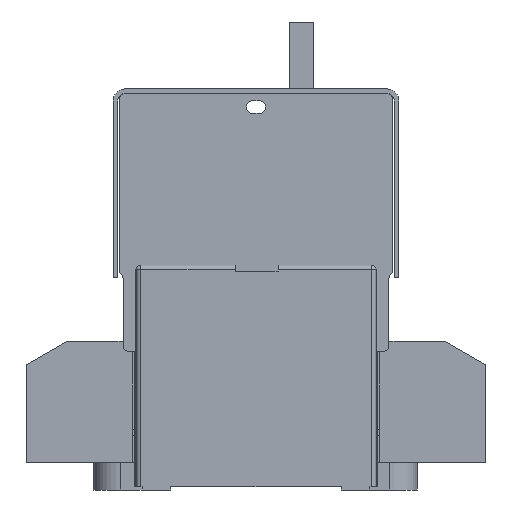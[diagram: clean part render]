
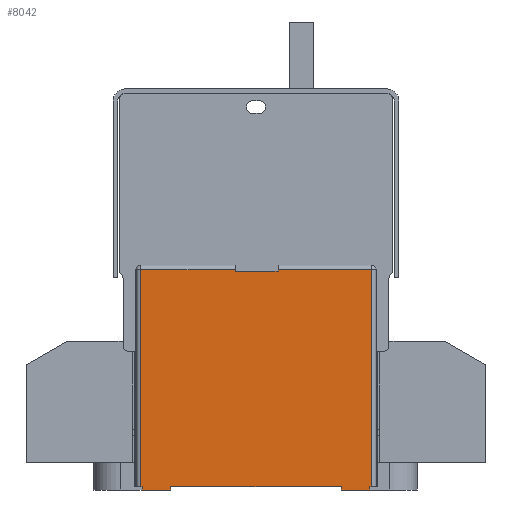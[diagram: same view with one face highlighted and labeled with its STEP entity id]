
A CAD part, left-side view. The second image highlights one B-rep face of the part: STEP entity #8042.
In plain terms, the highlighted planar face has unit normal (-1, 0, 0).
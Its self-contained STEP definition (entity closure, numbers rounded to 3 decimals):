
#824=PLANE('',#24557);
#1885=FACE_OUTER_BOUND('',#9994,.T.);
#4083=LINE('',#36682,#6587);
#4085=LINE('',#36688,#6589);
#4155=LINE('',#37000,#6659);
#4171=LINE('',#37080,#6675);
#4206=LINE('',#37163,#6710);
#4211=LINE('',#37175,#6715);
#4213=LINE('',#37178,#6717);
#4219=LINE('',#37191,#6723);
#4356=LINE('',#37476,#6860);
#4357=LINE('',#37480,#6861);
#4358=LINE('',#37481,#6862);
#4359=LINE('',#37483,#6863);
#4360=LINE('',#37485,#6864);
#4361=LINE('',#37486,#6865);
#4362=LINE('',#37487,#6866);
#4363=LINE('',#37489,#6867);
#6587=VECTOR('',#29756,1.);
#6589=VECTOR('',#29762,1.);
#6659=VECTOR('',#30050,1.);
#6675=VECTOR('',#30162,1.);
#6710=VECTOR('',#30247,1.);
#6715=VECTOR('',#30254,1.);
#6717=VECTOR('',#30258,1.);
#6723=VECTOR('',#30266,1.);
#6860=VECTOR('',#30521,1.);
#6861=VECTOR('',#30526,1.);
#6862=VECTOR('',#30527,1.);
#6863=VECTOR('',#30528,1.);
#6864=VECTOR('',#30529,1.);
#6865=VECTOR('',#30530,1.);
#6866=VECTOR('',#30531,1.);
#6867=VECTOR('',#30532,1.);
#8042=ADVANCED_FACE('',(#1885),#824,.F.);
#9994=EDGE_LOOP('',(#15987,#15988,#15989,#15990,#15991,#15992,#15993,#15994,
#15995,#15996,#15997,#15998,#15999,#16000,#16001,#16002));
#15987=ORIENTED_EDGE('',*,*,#21971,.F.);
#15988=ORIENTED_EDGE('',*,*,#21766,.T.);
#15989=ORIENTED_EDGE('',*,*,#21590,.T.);
#15990=ORIENTED_EDGE('',*,*,#21973,.F.);
#15991=ORIENTED_EDGE('',*,*,#21593,.T.);
#15992=ORIENTED_EDGE('',*,*,#21726,.T.);
#15993=ORIENTED_EDGE('',*,*,#21974,.T.);
#15994=ORIENTED_EDGE('',*,*,#21975,.T.);
#15995=ORIENTED_EDGE('',*,*,#21976,.F.);
#15996=ORIENTED_EDGE('',*,*,#21807,.F.);
#15997=ORIENTED_EDGE('',*,*,#21812,.T.);
#15998=ORIENTED_EDGE('',*,*,#21977,.T.);
#15999=ORIENTED_EDGE('',*,*,#21820,.F.);
#16000=ORIENTED_EDGE('',*,*,#21814,.F.);
#16001=ORIENTED_EDGE('',*,*,#21978,.T.);
#16002=ORIENTED_EDGE('',*,*,#21979,.T.);
#18544=VERTEX_POINT('',#36681);
#18545=VERTEX_POINT('',#36683);
#18547=VERTEX_POINT('',#36689);
#18548=VERTEX_POINT('',#36690);
#18636=VERTEX_POINT('',#36995);
#18637=VERTEX_POINT('',#36999);
#18677=VERTEX_POINT('',#37164);
#18678=VERTEX_POINT('',#37165);
#18682=VERTEX_POINT('',#37174);
#18683=VERTEX_POINT('',#37179);
#18684=VERTEX_POINT('',#37180);
#18687=VERTEX_POINT('',#37188);
#18778=VERTEX_POINT('',#37477);
#18779=VERTEX_POINT('',#37482);
#18780=VERTEX_POINT('',#37484);
#18781=VERTEX_POINT('',#37488);
#21590=EDGE_CURVE('',#18545,#18544,#4083,.T.);
#21593=EDGE_CURVE('',#18547,#18548,#4085,.T.);
#21726=EDGE_CURVE('',#18548,#18637,#4155,.T.);
#21766=EDGE_CURVE('',#18636,#18545,#4171,.T.);
#21807=EDGE_CURVE('',#18677,#18678,#4206,.T.);
#21812=EDGE_CURVE('',#18677,#18682,#4211,.T.);
#21814=EDGE_CURVE('',#18683,#18684,#4213,.T.);
#21820=EDGE_CURVE('',#18684,#18687,#4219,.T.);
#21971=EDGE_CURVE('',#18636,#18778,#4356,.T.);
#21973=EDGE_CURVE('',#18547,#18544,#4357,.T.);
#21974=EDGE_CURVE('',#18637,#18779,#4358,.T.);
#21975=EDGE_CURVE('',#18779,#18780,#4359,.T.);
#21976=EDGE_CURVE('',#18678,#18780,#4360,.T.);
#21977=EDGE_CURVE('',#18682,#18687,#4361,.T.);
#21978=EDGE_CURVE('',#18683,#18781,#4362,.T.);
#21979=EDGE_CURVE('',#18781,#18778,#4363,.T.);
#24557=AXIS2_PLACEMENT_3D('',#37490,#30533,#30534);
#29756=DIRECTION('',(0.,0.,-1.));
#29762=DIRECTION('',(0.,0.,1.));
#30050=DIRECTION('',(0.,1.,0.));
#30162=DIRECTION('',(0.,1.,0.));
#30247=DIRECTION('',(0.,1.,0.));
#30254=DIRECTION('',(0.,0.,1.));
#30258=DIRECTION('',(0.,1.,0.));
#30266=DIRECTION('',(0.,0.,1.));
#30521=DIRECTION('',(0.,0.,-1.));
#30526=DIRECTION('',(0.,-1.,0.));
#30527=DIRECTION('',(0.,0.,-1.));
#30528=DIRECTION('',(0.,-1.,0.));
#30529=DIRECTION('',(0.,0.,1.));
#30530=DIRECTION('',(0.,-1.,0.));
#30531=DIRECTION('',(0.,0.,1.));
#30532=DIRECTION('',(0.,-1.,0.));
#30533=DIRECTION('',(1.,0.,0.));
#30534=DIRECTION('',(0.,0.,-1.));
#36681=CARTESIAN_POINT('',(-69.,-31.985,67.));
#36682=CARTESIAN_POINT('',(-69.,-31.985,69.1));
#36683=CARTESIAN_POINT('',(-69.,-31.985,67.6));
#36688=CARTESIAN_POINT('',(-69.,-17.985,69.1));
#36689=CARTESIAN_POINT('',(-69.,-17.985,67.));
#36690=CARTESIAN_POINT('',(-69.,-17.985,67.6));
#36995=CARTESIAN_POINT('',(-69.,-62.735,67.6));
#36999=CARTESIAN_POINT('',(-69.,13.265,67.6));
#37000=CARTESIAN_POINT('',(-69.,13.265,67.6));
#37080=CARTESIAN_POINT('',(-69.,13.265,67.6));
#37163=CARTESIAN_POINT('',(-69.,3.265,-4.9));
#37164=CARTESIAN_POINT('',(-69.,3.265,-4.9));
#37165=CARTESIAN_POINT('',(-69.,12.765,-4.9));
#37174=CARTESIAN_POINT('',(-69.,3.265,-3.9));
#37175=CARTESIAN_POINT('',(-69.,3.265,-5.9));
#37178=CARTESIAN_POINT('',(-69.,-62.235,-4.9));
#37179=CARTESIAN_POINT('',(-69.,-62.235,-4.9));
#37180=CARTESIAN_POINT('',(-69.,-52.735,-4.9));
#37188=CARTESIAN_POINT('',(-69.,-52.735,-3.9));
#37191=CARTESIAN_POINT('',(-69.,-52.735,-5.9));
#37476=CARTESIAN_POINT('',(-69.,-62.735,69.1));
#37477=CARTESIAN_POINT('',(-69.,-62.735,-3.9));
#37480=CARTESIAN_POINT('',(-69.,12.765,67.));
#37481=CARTESIAN_POINT('',(-69.,13.265,69.1));
#37482=CARTESIAN_POINT('',(-69.,13.265,-3.9));
#37483=CARTESIAN_POINT('',(-69.,-62.235,-3.9));
#37484=CARTESIAN_POINT('',(-69.,12.765,-3.9));
#37485=CARTESIAN_POINT('',(-69.,12.765,-5.9));
#37486=CARTESIAN_POINT('',(-69.,-62.235,-3.9));
#37487=CARTESIAN_POINT('',(-69.,-62.235,-5.9));
#37488=CARTESIAN_POINT('',(-69.,-62.235,-3.9));
#37489=CARTESIAN_POINT('',(-69.,-62.235,-3.9));
#37490=CARTESIAN_POINT('',(-69.,-62.235,69.1));
